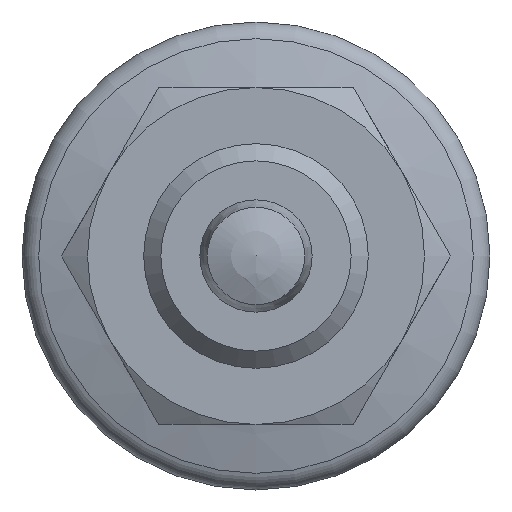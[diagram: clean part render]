
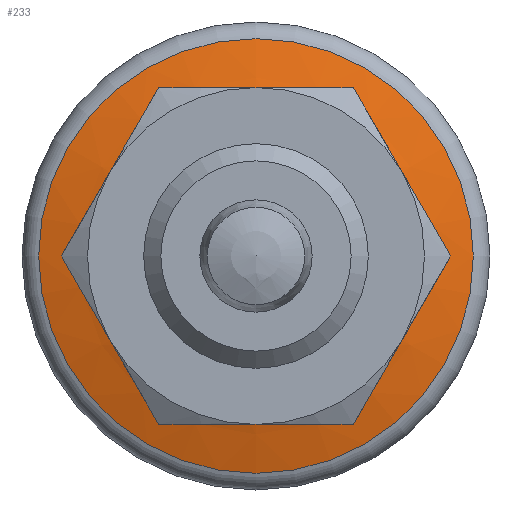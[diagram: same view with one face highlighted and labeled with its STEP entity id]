
A CAD part, front view. The second image highlights one B-rep face of the part: STEP entity #233.
In plain terms, the highlighted conical face has half-angle 75 degrees and reference radius 11.611 mm.
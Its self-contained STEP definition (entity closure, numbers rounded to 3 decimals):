
#233 = ADVANCED_FACE( '', ( #338, #339 ), #340, .T. );
#338 = FACE_BOUND( '', #526, .T. );
#339 = FACE_OUTER_BOUND( '', #527, .T. );
#340 = CONICAL_SURFACE( '', #528, 11.611, 1.309 );
#526 = EDGE_LOOP( '', ( #776 ) );
#527 = EDGE_LOOP( '', ( #777 ) );
#528 = AXIS2_PLACEMENT_3D( '', #778, #779, #780 );
#776 = ORIENTED_EDGE( '', *, *, #1037, .F. );
#777 = ORIENTED_EDGE( '', *, *, #1036, .T. );
#778 = CARTESIAN_POINT( '', ( 41.262, 0., 0. ) );
#779 = DIRECTION( '', ( 1., 0., 0. ) );
#780 = DIRECTION( '', ( 0., 1., 0. ) );
#1036 = EDGE_CURVE( '', #1168, #1168, #1169, .T. );
#1037 = EDGE_CURVE( '', #1170, #1170, #1171, .T. );
#1168 = VERTEX_POINT( '', #1418 );
#1169 = CIRCLE( '', #1419, 11.611 );
#1170 = VERTEX_POINT( '', #1420 );
#1171 = CIRCLE( '', #1421, 7.44 );
#1418 = CARTESIAN_POINT( '', ( 41.262, -11.611, 0. ) );
#1419 = AXIS2_PLACEMENT_3D( '', #1725, #1726, #1727 );
#1420 = CARTESIAN_POINT( '', ( 40.144, -7.44, 0. ) );
#1421 = AXIS2_PLACEMENT_3D( '', #1728, #1729, #1730 );
#1725 = CARTESIAN_POINT( '', ( 41.262, 0., 0. ) );
#1726 = DIRECTION( '', ( -1., 0., 0. ) );
#1727 = DIRECTION( '', ( 0., -1., 0. ) );
#1728 = CARTESIAN_POINT( '', ( 40.144, 0., 0. ) );
#1729 = DIRECTION( '', ( -1., 0., 0. ) );
#1730 = DIRECTION( '', ( 0., -1., 0. ) );
